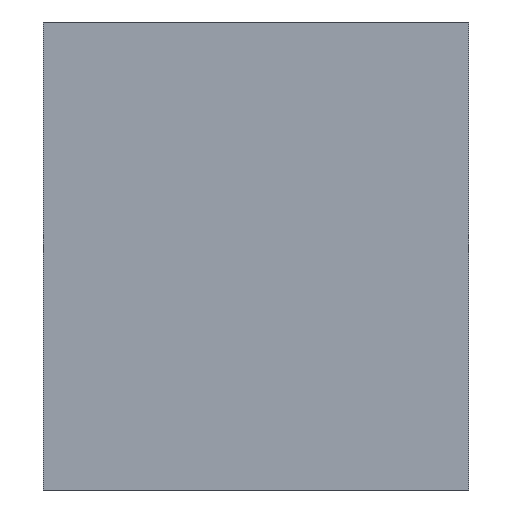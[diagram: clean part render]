
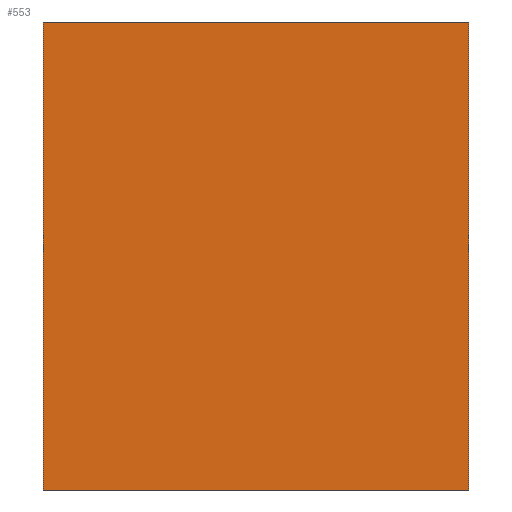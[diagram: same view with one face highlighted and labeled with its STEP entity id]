
A CAD part, front view. The second image highlights one B-rep face of the part: STEP entity #553.
In plain terms, the highlighted planar face has unit normal (0, -1, 0).
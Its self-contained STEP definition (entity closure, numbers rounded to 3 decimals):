
#354 = CARTESIAN_POINT ( 'NONE',  ( 50., -50., 55. ) ) ;
#494 = VERTEX_POINT ( 'NONE', #354 ) ;
#510 = VERTEX_POINT ( 'NONE', #1743 ) ;
#516 = EDGE_CURVE ( 'NONE', #494, #510, #1617, .T. ) ;
#526 = VERTEX_POINT ( 'NONE', #1615 ) ;
#547 = EDGE_CURVE ( 'NONE', #526, #568, #1658, .T. ) ;
#548 = ORIENTED_EDGE ( 'NONE', *, *, #547, .T. ) ;
#549 = EDGE_CURVE ( 'NONE', #526, #494, #1673, .T. ) ;
#553 = ADVANCED_FACE ( 'NONE', ( #1653 ), #1684, .F. ) ;
#554 = ORIENTED_EDGE ( 'NONE', *, *, #549, .F. ) ;
#561 = ORIENTED_EDGE ( 'NONE', *, *, #516, .F. ) ;
#567 = EDGE_LOOP ( 'NONE', ( #579, #561, #554, #548 ) ) ;
#568 = VERTEX_POINT ( 'NONE', #1644 ) ;
#579 = ORIENTED_EDGE ( 'NONE', *, *, #580, .T. ) ;
#580 = EDGE_CURVE ( 'NONE', #568, #510, #1553, .T. ) ;
#1552 = CARTESIAN_POINT ( 'NONE',  ( 45., -50., -55. ) ) ;
#1553 = LINE ( 'NONE', #1552, #1555 ) ;
#1554 = DIRECTION ( 'NONE',  ( 1., 0., 0. ) ) ;
#1555 = VECTOR ( 'NONE', #1554, 1000. ) ;
#1615 = CARTESIAN_POINT ( 'NONE',  ( -50., -50., 55. ) ) ;
#1617 = LINE ( 'NONE', #1623, #1630 ) ;
#1622 = DIRECTION ( 'NONE',  ( 0., 0., -1. ) ) ;
#1623 = CARTESIAN_POINT ( 'NONE',  ( 50., -50., 50. ) ) ;
#1630 = VECTOR ( 'NONE', #1622, 1000. ) ;
#1644 = CARTESIAN_POINT ( 'NONE',  ( -50., -50., -55. ) ) ;
#1653 = FACE_OUTER_BOUND ( 'NONE', #567, .T. ) ;
#1658 = LINE ( 'NONE', #1706, #1705 ) ;
#1670 = DIRECTION ( 'NONE',  ( 1., 0., 0. ) ) ;
#1671 = VECTOR ( 'NONE', #1670, 1000. ) ;
#1672 = CARTESIAN_POINT ( 'NONE',  ( 45., -50., 55. ) ) ;
#1673 = LINE ( 'NONE', #1672, #1671 ) ;
#1684 = PLANE ( 'NONE',  #1703 ) ;
#1700 = DIRECTION ( 'NONE',  ( -1., 0., 0. ) ) ;
#1701 = DIRECTION ( 'NONE',  ( 0., 1., 0. ) ) ;
#1702 = CARTESIAN_POINT ( 'NONE',  ( 45., -50., 50. ) ) ;
#1703 = AXIS2_PLACEMENT_3D ( 'NONE', #1702, #1701, #1700 ) ;
#1704 = DIRECTION ( 'NONE',  ( 0., 0., -1. ) ) ;
#1705 = VECTOR ( 'NONE', #1704, 1000. ) ;
#1706 = CARTESIAN_POINT ( 'NONE',  ( -50., -50., 50. ) ) ;
#1743 = CARTESIAN_POINT ( 'NONE',  ( 50., -50., -55. ) ) ;
